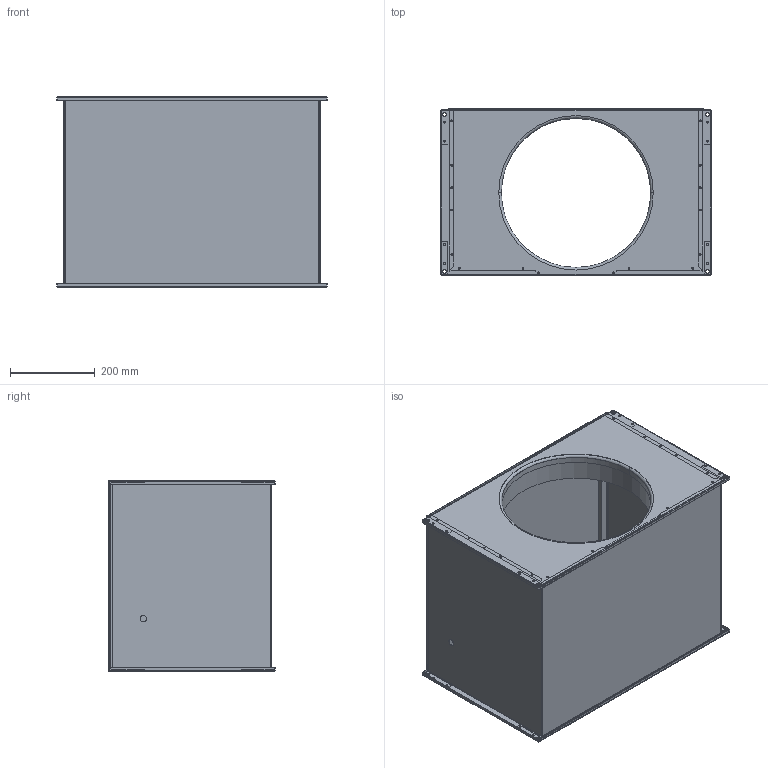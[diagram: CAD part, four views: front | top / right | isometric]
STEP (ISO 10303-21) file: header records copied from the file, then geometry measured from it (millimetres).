
FILE_DESCRIPTION (( 'STEP AP203' ), '1' );
FILE_NAME ('127732-00_ELKI6035E212.STEP', '2013-09-25T07:35:25', ( '' ), ( '' ), 'SwSTEP 2.0', 'SolidWorks 2012', '' );
FILE_SCHEMA (( 'CONFIG_CONTROL_DESIGN' ));
Length unit declared in the file: millimetre
Products named in the file (1): 127732-00_ELKI6035E212
Bounding box: 638.01 x 392.5 x 449 mm (x, y, z)
Surface area: 2772035.9 mm2 (no closed solid volume)
Topology: 0 solids, 46 shells, 402 faces, 1378 edges, 1001 vertices
Faces by surface type: cylinder 255, plane 133, bspline 8, torus 6
Entity records: 16356 total; most frequent: CARTESIAN_POINT 3864, DIRECTION 2770, ORIENTED_EDGE 2122, EDGE_CURVE 1378, AXIS2_PLACEMENT_3D 1049, VERTEX_POINT 1001, VECTOR 672, LINE 672
